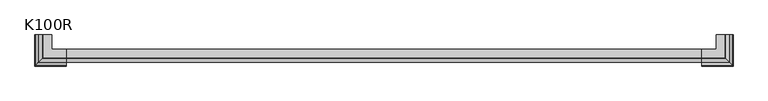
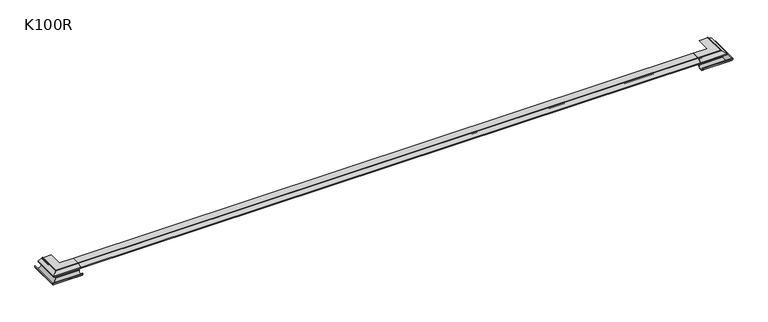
"""IFC4 building model written with IfcOpenShell, lengths in millimetres: proxy geometry, K100R Profil okapowy prosty z rynną : K100R."""

from ifc_helpers import new_model, si_unit, frame, origin, place, context, project, spatial, polyline, circle_curve, ellipse_curve, outline, extrude, faceted_brep, source, transform, mapped, element, save
from ifc_brep_helpers import plane_surface, cylinder_surface, revolved_surface, advanced_brep


def k100r_492979a8(model_context):
    return source(origin(), model_context, "Body", "SolidModel", [
        advanced_brep(
        [(4830.0, -6.5000001, -42.1535519), (4830.0, -5.0999988, -40.7535506), (4830.0, -5.0999988, -45.8728048), (4830.0, -7.6128151, -48.2176778), (4830.0, -8.1261224, -51.8700476), (4830.0, -4.8412617, -50.4757071), (4830.0, -5.621057, -52.4241329), (4830.0, -8.427087, -54.009508), (4830.0, -58.1999995, -50.6475434), (4830.0, -56.7240776, -52.5390375), (4830.0, -9.7348852, -53.1671491), (4830.0, -8.8685397, -47.4134582), (4830.0, -6.5000001, -45.117797), (5008.1261224, -8.1261224, -51.8700476), (5004.8412617, -4.8412617, -50.4757071), (5005.621057, -5.621057, -52.4241329), (5008.427087, -8.427087, -54.009508), (5058.1999995, -58.1999995, -50.6475434), (5056.7240776, -56.7240776, -52.5390375), (5009.7348852, -9.7348852, -53.1671491), (5008.8685397, -8.8685397, -47.4134582), (5007.6128151, -7.6128151, -48.2176778), (5006.5000001, 170.0, -42.1535519), (5006.5000001, 170.0, -45.117797), (5008.8685397, 170.0, -47.4134582), (5009.7348852, 170.0, -53.1671491), (5056.7240776, 170.0, -52.5390375), (5058.1999995, 170.0, -50.6475434), (5008.427087, 170.0, -54.009508), (5005.621057, 170.0, -52.4241329), (5004.8412617, 170.0, -50.4757071), (5008.1261224, 170.0, -51.8700476), (5007.6128151, 170.0, -48.2176778), (5005.0999988, 170.0, -45.8728048), (5005.0999988, 170.0, -40.7535506), (5006.5000001, -6.5000001, -42.1535519), (5005.0999988, -5.0999988, -40.7535506), (5005.0999988, -5.0999988, -45.8728048), (5006.5000001, -6.5000001, -45.117797)],
        [
            (0, 1),
            (1, 2),
            (2, 3),
            (3, 4),
            (4, 5),
            (5, 6),
            (6, 7),
            (7, 8, circle_curve(frame((4830.0, -33.1999995, -50.6475434), z_axis=(-1.0, 0.0, 0.0), x_axis=(0.0, -1.0, 0.0)), 25.0)),
            (8, 9, circle_curve(frame((4830.0, -56.2499995, -50.6475434), z_axis=(-1.0, 0.0, 0.0), x_axis=(0.0, -1.0, 0.0)), 1.95)),
            (9, 10, circle_curve(frame((4830.0, -33.1999995, -50.6475434), z_axis=(1.0, 0.0, 0.0), x_axis=(0.0, -1.0, 0.0)), 23.6)),
            (10, 11),
            (11, 12),
            (12, 0),
            (4, 13),
            (13, 14),
            (14, 5),
            (14, 15),
            (15, 6),
            (15, 16),
            (16, 7),
            (16, 17, ellipse_curve(frame((5033.1999995, -33.1999995, -50.6475434), z_axis=(-0.7071067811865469, -0.7071067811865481, 0.0), x_axis=(-0.7071067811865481, 0.7071067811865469, 0.0)), 35.3553391, 25.0)),
            (17, 8),
            (17, 18, ellipse_curve(frame((5056.2499995, -56.2499995, -50.6475434), z_axis=(-0.7071067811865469, -0.7071067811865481, 0.0), x_axis=(-0.7071067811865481, 0.7071067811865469, 0.0)), 2.7577164, 1.95)),
            (18, 9),
            (18, 19, ellipse_curve(frame((5033.1999995, -33.1999995, -50.6475434), z_axis=(0.7071067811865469, 0.7071067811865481, 0.0), x_axis=(0.7071067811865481, -0.7071067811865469, 0.0)), 33.3754401, 23.6)),
            (19, 10),
            (19, 20),
            (20, 11),
            (3, 21),
            (21, 13),
            (22, 23),
            (23, 24),
            (24, 25),
            (25, 26, circle_curve(frame((5033.1999995, 170.0, -50.6475434), z_axis=(0.0, -1.0, 0.0), x_axis=(1.0, 0.0, 0.0)), 23.6)),
            (26, 27, circle_curve(frame((5056.2499995, 170.0, -50.6475434), z_axis=(0.0, 1.0, 0.0), x_axis=(1.0, 0.0, 0.0)), 1.95)),
            (27, 28, circle_curve(frame((5033.1999995, 170.0, -50.6475434), z_axis=(0.0, 1.0, 0.0), x_axis=(1.0, 0.0, 0.0)), 25.0)),
            (28, 29),
            (29, 30),
            (30, 31),
            (31, 32),
            (32, 33),
            (33, 34),
            (34, 22),
            (13, 31),
            (30, 14),
            (29, 15),
            (28, 16),
            (27, 17),
            (26, 18),
            (25, 19),
            (24, 20),
            (21, 32),
            (0, 35),
            (35, 36),
            (36, 1),
            (36, 37),
            (37, 2),
            (37, 21),
            (20, 38),
            (38, 12),
            (38, 35),
            (35, 22),
            (34, 36),
            (33, 37),
            (23, 38),
        ],
        [
            plane_surface(frame((4830.0, 0.0, 0.0), z_axis=(-1.0, 0.0, 0.0), x_axis=(0.0, 0.0, 1.0))),
            plane_surface(frame((4830.0, -4.8412617, -50.4757071), z_axis=(0.0, -0.3907310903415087, 0.9205048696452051), x_axis=(1.0, 0.0, 0.0))),
            plane_surface(frame((4830.0, -5.621057, -52.4241329), z_axis=(0.0, 0.9284068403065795, -0.37156525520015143), x_axis=(1.0, 0.0, 0.0))),
            plane_surface(frame((4830.0, -8.427087, -54.009508), z_axis=(0.0, 0.49190631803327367, -0.8706481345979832), x_axis=(1.0, 0.0, 0.0))),
            cylinder_surface(frame((4830.0, -33.1999995, -50.6475434), z_axis=(-1.0, 0.0, 0.0), x_axis=(0.0, -1.0, 0.0)), 25.0),
            cylinder_surface(frame((4830.0, -56.2499995, -50.6475434), z_axis=(-1.0, 0.0, 0.0), x_axis=(0.0, -1.0, 0.0)), 1.95),
            revolved_surface(polyline([(5056.799999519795, -56.7999995, -50.6475434), (4830.0, -56.7999995, -50.6475434)]), (4830.0, -33.1999995, -50.6475434), (1.0, 0.0, 0.0)),
            plane_surface(frame((4830.0, -8.8685397, -47.4134582), z_axis=(0.0, -0.9888532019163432, 0.14889373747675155), x_axis=(1.0, 0.0, 0.0))),
            plane_surface(frame((4830.0, -8.1261224, -51.8700476), z_axis=(0.0, 0.9902680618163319, -0.13917315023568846), x_axis=(1.0, 0.0, 0.0))),
            plane_surface(frame((5000.0, 170.0, 0.0), z_axis=(0.0, 1.0, 0.0), x_axis=(0.0, 0.0, 1.0))),
            plane_surface(frame((5004.8412617, -4.8412617, -50.4757071), z_axis=(0.3907310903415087, 0.0, 0.9205048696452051), x_axis=(0.0, 1.0, 0.0))),
            plane_surface(frame((5005.621057, -5.621057, -52.4241329), z_axis=(-0.9284068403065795, 0.0, -0.37156525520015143), x_axis=(0.0, 1.0, 0.0))),
            plane_surface(frame((5008.427087, -8.427087, -54.009508), z_axis=(-0.49190631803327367, 0.0, -0.8706481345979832), x_axis=(0.0, 1.0, 0.0))),
            cylinder_surface(frame((5033.1999995, 0.0, -50.6475434), z_axis=(0.0, -1.0, 0.0), x_axis=(1.0, 0.0, 0.0)), 25.0),
            cylinder_surface(frame((5056.2499995, 0.0, -50.6475434), z_axis=(0.0, -1.0, 0.0), x_axis=(1.0, 0.0, 0.0)), 1.95),
            revolved_surface(polyline([(5056.7999995, 170.0, -50.6475434), (5056.7999995, -56.7999995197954, -50.6475434)]), (5033.1999995, 0.0, -50.6475434), (0.0, 1.0, 0.0)),
            plane_surface(frame((5008.8685397, -8.8685397, -47.4134582), z_axis=(0.9888532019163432, 0.0, 0.14889373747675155), x_axis=(0.0, 1.0, 0.0))),
            plane_surface(frame((5008.1261224, -8.1261224, -51.8700476), z_axis=(-0.9902680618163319, 0.0, -0.13917315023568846), x_axis=(0.0, 1.0, 0.0))),
            plane_surface(frame((4830.0, -5.0999988, -40.7535506), z_axis=(0.0, -0.7071067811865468, 0.7071067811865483), x_axis=(1.0, 0.0, 0.0))),
            plane_surface(frame((4830.0, -5.0999988, -45.8728048), z_axis=(0.0, 1.0, 0.0), x_axis=(1.0, 0.0, 0.0))),
            plane_surface(frame((4830.0, -7.6128151, -48.2176778), z_axis=(0.0, 0.6822525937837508, -0.7311165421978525), x_axis=(1.0, 0.0, 0.0))),
            plane_surface(frame((4830.0, -6.5000001, -45.117797), z_axis=(0.0, -0.6959732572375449, 0.7180677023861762), x_axis=(1.0, 0.0, 0.0))),
            plane_surface(frame((4830.0, -6.5000001, -42.1535519), z_axis=(0.0, -1.0, 0.0), x_axis=(1.0, 0.0, 0.0))),
            plane_surface(frame((5005.0999988, -5.0999988, -40.7535506), z_axis=(0.7071067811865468, 0.0, 0.7071067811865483), x_axis=(0.0, 1.0, 0.0))),
            plane_surface(frame((5005.0999988, -5.0999988, -45.8728048), z_axis=(-1.0, 0.0, 0.0), x_axis=(0.0, 1.0, 0.0))),
            plane_surface(frame((5007.6128151, -7.6128151, -48.2176778), z_axis=(-0.6822525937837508, 0.0, -0.7311165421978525), x_axis=(0.0, 1.0, 0.0))),
            plane_surface(frame((5006.5000001, -6.5000001, -45.117797), z_axis=(0.6959732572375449, 0.0, 0.7180677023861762), x_axis=(0.0, 1.0, 0.0))),
            plane_surface(frame((5006.5000001, -6.5000001, -42.1535519), z_axis=(1.0, 0.0, 0.0), x_axis=(0.0, 1.0, 0.0))),
        ],
        [
            (0, [[1, 2, 3, 4, 5, 6, 7, 8, 9, 10, 11, 12, 13]]),
            (1, [[14, 15, 16, -5]]),
            (2, [[-16, 17, 18, -6]]),
            (3, [[-18, 19, 20, -7]]),
            (4, [[-20, 21, 22, -8]]),
            (5, [[-22, 23, 24, -9]]),
            (6, [[-24, 25, 26, -10]]),
            (7, [[-26, 27, 28, -11]]),
            (8, [[29, 30, -14, -4]]),
            (9, [[31, 32, 33, 34, 35, 36, 37, 38, 39, 40, 41, 42, 43]]),
            (10, [[44, -39, 45, -15]]),
            (11, [[-45, -38, 46, -17]]),
            (12, [[-46, -37, 47, -19]]),
            (13, [[-47, -36, 48, -21]]),
            (14, [[-48, -35, 49, -23]]),
            (15, [[-49, -34, 50, -25]]),
            (16, [[-50, -33, 51, -27]]),
            (17, [[52, -40, -44, -30]]),
            (18, [[53, 54, 55, -1]]),
            (19, [[-55, 56, 57, -2]]),
            (20, [[-57, 58, -29, -3]]),
            (21, [[-28, 59, 60, -12]]),
            (22, [[-60, 61, -53, -13]]),
            (23, [[62, -43, 63, -54]]),
            (24, [[-63, -42, 64, -56]]),
            (25, [[-64, -41, -52, -58]]),
            (26, [[-51, -32, 65, -59]]),
            (27, [[-65, -31, -62, -61]]),
        ],
    ),
        faceted_brep([(4830.0, -31.2999993, -17.3500005), (4830.0, -1.2999997, -2.3500002), (4830.0, -1.2999997, 0.0), (4830.0, 0.0, 0.0), (4830.0, 0.0, -2.3499993), (4830.0, 64.7000037, -2.3499993), (4830.0, 64.7000037, -3.6), (4830.0, 0.0, -3.6), (4830.0, 0.0, -6.2999991), (4830.0, -1.1999998, -6.2999991), (4830.0, -1.1999998, -3.697542), (4830.0, -5.0999988, -5.6475416), (4830.0, -5.0999988, -40.753556), (4830.0, -7.9999999, -43.6535517), (4830.0, -7.9999999, -7.0975422), (4830.0, -30.0499993, -18.1225422), (4830.0, -30.0499993, -25.9199265), (4830.0, -31.2999993, -26.6), (5031.2999993, 170.0, -17.3500005), (5031.2999993, 170.0, -26.6), (5030.0499993, 170.0, -25.9199265), (5030.0499993, 170.0, -18.1225422), (5007.9999999, 170.0, -7.0975422), (5007.9999999, 170.0, -43.6535517), (5005.0999988, 170.0, -40.753556), (5005.0999988, 170.0, -5.6475416), (5001.1999998, 170.0, -3.697542), (5001.1999998, 170.0, -6.2999991), (5000.0, 170.0, -6.2999991), (5000.0, 170.0, -3.6), (4935.2999963, 170.0, -3.6), (4935.2999963, 170.0, -2.3499993), (5000.0, 170.0, -2.3499993), (5000.0, 170.0, 0.0), (5001.2999997, 170.0, 0.0), (5001.2999997, 170.0, -2.3500002), (5031.2999993, -31.2999993, -26.6), (5031.2999993, -31.2999993, -17.3500005), (5030.0499993, -30.0499993, -25.9199265), (5030.0499993, -30.0499993, -18.1225422), (5007.9999999, -7.9999999, -7.0975422), (5007.9999999, -7.9999999, -43.6535517), (5005.0999988, -5.0999988, -40.753556), (5001.1999998, -1.1999998, -3.697542), (5005.0999988, -5.0999988, -5.6475416), (5001.1999998, -1.1999998, -6.2999991), (5000.0, 0.0, -6.2999991), (5000.0, 0.0, -3.6), (4935.2999963, 64.7000037, -3.6), (4935.2999963, 64.7000037, -2.3499993), (5000.0, 0.0, -2.3499993), (5000.0, 0.0, 0.0), (5001.2999997, -1.2999997, 0.0), (5001.2999997, -1.2999997, -2.3500002)], [[[0, 1, 2, 3, 4, 5, 6, 7, 8, 9, 10, 11, 12, 13, 14, 15, 16, 17]], [[18, 19, 20, 21, 22, 23, 24, 25, 26, 27, 28, 29, 30, 31, 32, 33, 34, 35]], [[17, 36, 37, 0]], [[16, 38, 36, 17]], [[15, 39, 38, 16]], [[14, 40, 39, 15]], [[13, 41, 40, 14]], [[12, 42, 41, 13]], [[10, 43, 44, 11]], [[9, 45, 43, 10]], [[8, 46, 28, 27, 45, 9]], [[7, 47, 46, 8]], [[6, 48, 30, 29, 47, 7]], [[5, 49, 48, 6]], [[4, 50, 32, 31, 49, 5]], [[3, 51, 50, 4]], [[2, 52, 34, 33, 51, 3]], [[1, 53, 52, 2]], [[0, 37, 53, 1]], [[36, 19, 18, 37]], [[38, 20, 19, 36]], [[39, 21, 20, 38]], [[40, 22, 21, 39]], [[41, 23, 22, 40]], [[42, 24, 23, 41]], [[43, 26, 25, 44]], [[45, 27, 26, 43]], [[47, 29, 28, 46]], [[49, 31, 30, 48]], [[51, 33, 32, 50]], [[53, 35, 34, 52]], [[37, 18, 35, 53]], [[11, 44, 42, 12]], [[44, 25, 24, 42]]]),
        advanced_brep(
        [(170.0, -6.5000001, -42.1535519), (170.0, -6.5000001, -45.117797), (170.0, -8.8685397, -47.4134582), (170.0, -9.7348852, -53.1671491), (170.0, -56.7240776, -52.5390375), (170.0, -58.1999995, -50.6475434), (170.0, -8.427087, -54.009508), (170.0, -5.621057, -52.4241329), (170.0, -4.8412617, -50.4757071), (170.0, -8.1261224, -51.8700476), (170.0, -7.6128151, -48.2176778), (170.0, -5.0999988, -45.8728048), (170.0, -5.0999988, -40.7535506), (-4.8412617, -4.8412617, -50.4757071), (-8.1261224, -8.1261224, -51.8700476), (-5.621057, -5.621057, -52.4241329), (-8.427087, -8.427087, -54.009508), (-58.1999995, -58.1999995, -50.6475434), (-56.7240776, -56.7240776, -52.5390375), (-9.7348852, -9.7348852, -53.1671491), (-8.8685397, -8.8685397, -47.4134582), (-7.6128151, -7.6128151, -48.2176778), (-6.5000001, 170.0, -42.1535519), (-5.0999988, 170.0, -40.7535506), (-5.0999988, 170.0, -45.8728048), (-7.6128151, 170.0, -48.2176778), (-8.1261224, 170.0, -51.8700476), (-4.8412617, 170.0, -50.4757071), (-5.621057, 170.0, -52.4241329), (-8.427087, 170.0, -54.009508), (-58.1999995, 170.0, -50.6475434), (-56.7240776, 170.0, -52.5390375), (-9.7348852, 170.0, -53.1671491), (-8.8685397, 170.0, -47.4134582), (-6.5000001, 170.0, -45.117797), (-5.0999988, -5.0999988, -40.7535506), (-6.5000001, -6.5000001, -42.1535519), (-5.0999988, -5.0999988, -45.8728048), (-6.5000001, -6.5000001, -45.117797)],
        [
            (0, 1),
            (1, 2),
            (2, 3),
            (3, 4, circle_curve(frame((170.0, -33.1999995, -50.6475434), z_axis=(-1.0, 0.0, 0.0), x_axis=(0.0, -1.0, 0.0)), 23.6)),
            (4, 5, circle_curve(frame((170.0, -56.2499995, -50.6475434), z_axis=(1.0, 0.0, 0.0), x_axis=(0.0, -1.0, 0.0)), 1.95)),
            (5, 6, circle_curve(frame((170.0, -33.1999995, -50.6475434), z_axis=(1.0, 0.0, 0.0), x_axis=(0.0, -1.0, 0.0)), 25.0)),
            (6, 7),
            (7, 8),
            (8, 9),
            (9, 10),
            (10, 11),
            (11, 12),
            (12, 0),
            (8, 13),
            (13, 14),
            (14, 9),
            (7, 15),
            (15, 13),
            (6, 16),
            (16, 15),
            (5, 17),
            (17, 16, ellipse_curve(frame((-33.1999995, -33.1999995, -50.6475434), z_axis=(0.7071067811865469, -0.7071067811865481, 0.0), x_axis=(0.7071067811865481, 0.7071067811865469, 0.0)), 35.3553391, 25.0)),
            (4, 18),
            (18, 17, ellipse_curve(frame((-56.2499995, -56.2499995, -50.6475434), z_axis=(0.7071067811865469, -0.7071067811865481, 0.0), x_axis=(0.7071067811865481, 0.7071067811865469, 0.0)), 2.7577164, 1.95)),
            (3, 19),
            (19, 18, ellipse_curve(frame((-33.1999995, -33.1999995, -50.6475434), z_axis=(-0.7071067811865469, 0.7071067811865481, 0.0), x_axis=(-0.7071067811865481, -0.7071067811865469, 0.0)), 33.3754401, 23.6)),
            (2, 20),
            (20, 19),
            (14, 21),
            (21, 10),
            (22, 23),
            (23, 24),
            (24, 25),
            (25, 26),
            (26, 27),
            (27, 28),
            (28, 29),
            (29, 30, circle_curve(frame((-33.1999995, 170.0, -50.6475434), z_axis=(0.0, 1.0, 0.0), x_axis=(-1.0, 0.0, 0.0)), 25.0)),
            (30, 31, circle_curve(frame((-56.2499995, 170.0, -50.6475434), z_axis=(0.0, 1.0, 0.0), x_axis=(-1.0, 0.0, 0.0)), 1.95)),
            (31, 32, circle_curve(frame((-33.1999995, 170.0, -50.6475434), z_axis=(0.0, -1.0, 0.0), x_axis=(-1.0, 0.0, 0.0)), 23.6)),
            (32, 33),
            (33, 34),
            (34, 22),
            (13, 27),
            (26, 14),
            (15, 28),
            (16, 29),
            (17, 30),
            (18, 31),
            (19, 32),
            (20, 33),
            (25, 21),
            (12, 35),
            (35, 36),
            (36, 0),
            (11, 37),
            (37, 35),
            (21, 37),
            (1, 38),
            (38, 20),
            (36, 38),
            (35, 23),
            (22, 36),
            (37, 24),
            (38, 34),
        ],
        [
            plane_surface(frame((170.0, 0.0, 0.0), z_axis=(1.0, 0.0, 0.0), x_axis=(0.0, 0.0, 1.0))),
            plane_surface(frame((170.0, -4.8412617, -50.4757071), z_axis=(0.0, -0.3907310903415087, 0.9205048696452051), x_axis=(-1.0, 0.0, 0.0))),
            plane_surface(frame((170.0, -5.621057, -52.4241329), z_axis=(0.0, 0.9284068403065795, -0.37156525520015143), x_axis=(-1.0, 0.0, 0.0))),
            plane_surface(frame((170.0, -8.427087, -54.009508), z_axis=(0.0, 0.49190631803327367, -0.8706481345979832), x_axis=(-1.0, 0.0, 0.0))),
            cylinder_surface(frame((170.0, -33.1999995, -50.6475434), z_axis=(1.0, 0.0, 0.0), x_axis=(0.0, -1.0, 0.0)), 25.0),
            cylinder_surface(frame((170.0, -56.2499995, -50.6475434), z_axis=(1.0, 0.0, 0.0), x_axis=(0.0, -1.0, 0.0)), 1.95),
            revolved_surface(polyline([(-56.79999951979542, -56.7999995, -50.6475434), (170.0, -56.7999995, -50.6475434)]), (170.0, -33.1999995, -50.6475434), (-1.0, 0.0, 0.0)),
            plane_surface(frame((170.0, -8.8685397, -47.4134582), z_axis=(0.0, -0.9888532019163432, 0.14889373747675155), x_axis=(-1.0, 0.0, 0.0))),
            plane_surface(frame((170.0, -8.1261224, -51.8700476), z_axis=(0.0, 0.9902680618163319, -0.13917315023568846), x_axis=(-1.0, 0.0, 0.0))),
            plane_surface(frame((0.0, 170.0, 0.0), z_axis=(0.0, 1.0, 0.0), x_axis=(0.0, 0.0, 1.0))),
            plane_surface(frame((-4.8412617, -4.8412617, -50.4757071), z_axis=(-0.3907310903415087, 0.0, 0.9205048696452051), x_axis=(0.0, 1.0, 0.0))),
            plane_surface(frame((-5.621057, -5.621057, -52.4241329), z_axis=(0.9284068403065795, 0.0, -0.37156525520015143), x_axis=(0.0, 1.0, 0.0))),
            plane_surface(frame((-8.427087, -8.427087, -54.009508), z_axis=(0.49190631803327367, 0.0, -0.8706481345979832), x_axis=(0.0, 1.0, 0.0))),
            cylinder_surface(frame((-33.1999995, 0.0, -50.6475434), z_axis=(0.0, -1.0, 0.0), x_axis=(-1.0, 0.0, 0.0)), 25.0),
            cylinder_surface(frame((-56.2499995, 0.0, -50.6475434), z_axis=(0.0, -1.0, 0.0), x_axis=(-1.0, 0.0, 0.0)), 1.95),
            revolved_surface(polyline([(-56.7999995, 170.0, -50.6475434), (-56.7999995, -56.7999995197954, -50.6475434)]), (-33.1999995, 0.0, -50.6475434), (0.0, 1.0, 0.0)),
            plane_surface(frame((-8.8685397, -8.8685397, -47.4134582), z_axis=(-0.9888532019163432, 0.0, 0.14889373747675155), x_axis=(0.0, 1.0, 0.0))),
            plane_surface(frame((-8.1261224, -8.1261224, -51.8700476), z_axis=(0.9902680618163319, 0.0, -0.13917315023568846), x_axis=(0.0, 1.0, 0.0))),
            plane_surface(frame((170.0, -5.0999988, -40.7535506), z_axis=(0.0, -0.7071067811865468, 0.7071067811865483), x_axis=(-1.0, 0.0, 0.0))),
            plane_surface(frame((170.0, -5.0999988, -45.8728048), z_axis=(0.0, 1.0, 0.0), x_axis=(-1.0, 0.0, 0.0))),
            plane_surface(frame((170.0, -7.6128151, -48.2176778), z_axis=(0.0, 0.6822525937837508, -0.7311165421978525), x_axis=(-1.0, 0.0, 0.0))),
            plane_surface(frame((170.0, -6.5000001, -45.117797), z_axis=(0.0, -0.6959732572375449, 0.7180677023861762), x_axis=(-1.0, 0.0, 0.0))),
            plane_surface(frame((170.0, -6.5000001, -42.1535519), z_axis=(0.0, -1.0, 0.0), x_axis=(-1.0, 0.0, 0.0))),
            plane_surface(frame((-5.0999988, -5.0999988, -40.7535506), z_axis=(-0.7071067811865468, 0.0, 0.7071067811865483), x_axis=(0.0, 1.0, 0.0))),
            plane_surface(frame((-5.0999988, -5.0999988, -45.8728048), z_axis=(1.0, 0.0, 0.0), x_axis=(0.0, 1.0, 0.0))),
            plane_surface(frame((-7.6128151, -7.6128151, -48.2176778), z_axis=(0.6822525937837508, 0.0, -0.7311165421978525), x_axis=(0.0, 1.0, 0.0))),
            plane_surface(frame((-6.5000001, -6.5000001, -45.117797), z_axis=(-0.6959732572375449, 0.0, 0.7180677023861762), x_axis=(0.0, 1.0, 0.0))),
            plane_surface(frame((-6.5000001, -6.5000001, -42.1535519), z_axis=(-1.0, 0.0, 0.0), x_axis=(0.0, 1.0, 0.0))),
        ],
        [
            (0, [[1, 2, 3, 4, 5, 6, 7, 8, 9, 10, 11, 12, 13]]),
            (1, [[-9, 14, 15, 16]]),
            (2, [[-8, 17, 18, -14]]),
            (3, [[-7, 19, 20, -17]]),
            (4, [[-6, 21, 22, -19]]),
            (5, [[-5, 23, 24, -21]]),
            (6, [[-4, 25, 26, -23]]),
            (7, [[-3, 27, 28, -25]]),
            (8, [[-10, -16, 29, 30]]),
            (9, [[31, 32, 33, 34, 35, 36, 37, 38, 39, 40, 41, 42, 43]]),
            (10, [[-15, 44, -35, 45]]),
            (11, [[-18, 46, -36, -44]]),
            (12, [[-20, 47, -37, -46]]),
            (13, [[-22, 48, -38, -47]]),
            (14, [[-24, 49, -39, -48]]),
            (15, [[-26, 50, -40, -49]]),
            (16, [[-28, 51, -41, -50]]),
            (17, [[-29, -45, -34, 52]]),
            (18, [[-13, 53, 54, 55]]),
            (19, [[-12, 56, 57, -53]]),
            (20, [[-11, -30, 58, -56]]),
            (21, [[-2, 59, 60, -27]]),
            (22, [[-1, -55, 61, -59]]),
            (23, [[-54, 62, -31, 63]]),
            (24, [[-57, 64, -32, -62]]),
            (25, [[-58, -52, -33, -64]]),
            (26, [[-60, 65, -42, -51]]),
            (27, [[-61, -63, -43, -65]]),
        ],
    ),
        faceted_brep([(170.0, -31.2999993, -17.3500005), (170.0, -31.2999993, -26.6), (170.0, -30.0499993, -25.9199265), (170.0, -30.0499993, -18.1225422), (170.0, -7.9999999, -7.0975422), (170.0, -7.9999999, -43.6535517), (170.0, -5.0999988, -40.753556), (170.0, -5.0999988, -5.6475416), (170.0, -1.1999998, -3.697542), (170.0, -1.1999998, -6.2999991), (170.0, 0.0, -6.2999991), (170.0, 0.0, -3.6), (170.0, 64.7000037, -3.6), (170.0, 64.7000037, -2.3499993), (170.0, 0.0, -2.3499993), (170.0, 0.0, 0.0), (170.0, -1.2999997, 0.0), (170.0, -1.2999997, -2.3500002), (-31.2999993, 170.0, -17.3500005), (-1.2999997, 170.0, -2.3500002), (-1.2999997, 170.0, 0.0), (0.0, 170.0, 0.0), (0.0, 170.0, -2.3499993), (64.7000037, 170.0, -2.3499993), (64.7000037, 170.0, -3.6), (0.0, 170.0, -3.6), (0.0, 170.0, -6.2999991), (-1.1999998, 170.0, -6.2999991), (-1.1999998, 170.0, -3.697542), (-5.0999988, 170.0, -5.6475416), (-5.0999988, 170.0, -40.753556), (-7.9999999, 170.0, -43.6535517), (-7.9999999, 170.0, -7.0975422), (-30.0499993, 170.0, -18.1225422), (-30.0499993, 170.0, -25.9199265), (-31.2999993, 170.0, -26.6), (-31.2999993, -31.2999993, -17.3500005), (-31.2999993, -31.2999993, -26.6), (-30.0499993, -30.0499993, -25.9199265), (-30.0499993, -30.0499993, -18.1225422), (-7.9999999, -7.9999999, -7.0975422), (-7.9999999, -7.9999999, -43.6535517), (-5.0999988, -5.0999988, -40.753556), (-5.0999988, -5.0999988, -5.6475416), (-1.1999998, -1.1999998, -3.697542), (-1.1999998, -1.1999998, -6.2999991), (0.0, 0.0, -6.2999991), (0.0, 0.0, -3.6), (64.7000037, 64.7000037, -3.6), (64.7000037, 64.7000037, -2.3499993), (0.0, 0.0, -2.3499993), (0.0, 0.0, 0.0), (-1.2999997, -1.2999997, 0.0), (-1.2999997, -1.2999997, -2.3500002)], [[[0, 1, 2, 3, 4, 5, 6, 7, 8, 9, 10, 11, 12, 13, 14, 15, 16, 17]], [[18, 19, 20, 21, 22, 23, 24, 25, 26, 27, 28, 29, 30, 31, 32, 33, 34, 35]], [[1, 0, 36, 37]], [[2, 1, 37, 38]], [[3, 2, 38, 39]], [[4, 3, 39, 40]], [[5, 4, 40, 41]], [[6, 5, 41, 42]], [[8, 7, 43, 44]], [[9, 8, 44, 45]], [[10, 9, 45, 27, 26, 46]], [[11, 10, 46, 47]], [[12, 11, 47, 25, 24, 48]], [[13, 12, 48, 49]], [[14, 13, 49, 23, 22, 50]], [[15, 14, 50, 51]], [[16, 15, 51, 21, 20, 52]], [[17, 16, 52, 53]], [[0, 17, 53, 36]], [[37, 36, 18, 35]], [[38, 37, 35, 34]], [[39, 38, 34, 33]], [[40, 39, 33, 32]], [[41, 40, 32, 31]], [[42, 41, 31, 30]], [[44, 43, 29, 28]], [[45, 44, 28, 27]], [[47, 46, 26, 25]], [[49, 48, 24, 23]], [[51, 50, 22, 21]], [[53, 52, 20, 19]], [[36, 53, 19, 18]], [[7, 6, 42, 43]], [[43, 42, 30, 29]]]),
        extrude(outline(polyline([(-31.2999993, -17.3500005), (-1.2999997, -2.3500002), (-1.2999997, 0.0), (0.0, 0.0), (0.0, -2.3499993), (64.7000037, -2.3499993), (64.7000037, -3.6), (0.0, -3.6), (0.0, -6.2999991), (-1.1999998, -6.2999991), (-1.1999998, -3.697542), (-6.5000001, -6.3475423), (-6.5000001, -42.1535547), (-7.9999999, -43.6535517), (-7.9999999, -7.0975422), (-30.0499993, -18.1225422), (-30.0499993, -25.9199265), (-31.2999993, -26.6), (-31.2999993, -17.3500005)])), frame((170.0, 0.0, 0.0), z_axis=(1.0, 0.0, 0.0), x_axis=(0.0, 1.0, 0.0)), (0.0, 0.0, 1.0), 4660.0),
    ])


if __name__ == "__main__":
    model = new_model("IFC4")
    model_context = context("Model", 3, world=origin())
    ifc_project = project(units=[si_unit("LENGTHUNIT", "METRE", prefix="MILLI")], contexts=[model_context])
    site = spatial("IfcSite", under=ifc_project)
    building = spatial("IfcBuilding", under=site)
    placement = place(None, origin())
    k100r_shape = k100r_492979a8(model_context)
    element("IfcBuildingElementProxy", 1, Name="K100R Profil okapowy prosty z rynną : K100R", ObjectType="K100R Profil okapowy prosty z rynną : K100R", at=placement, inside=building, context=model_context, shape_type="MappedRepresentation", body=[
        mapped(k100r_shape, transform((0.0, 0.0, 0.0), x_axis=(1.0, 0.0, 0.0), y_axis=(0.0, 1.0, 0.0), z_axis=(0.0, 0.0, 1.0))),
    ])
    save(model, "model.ifc")
